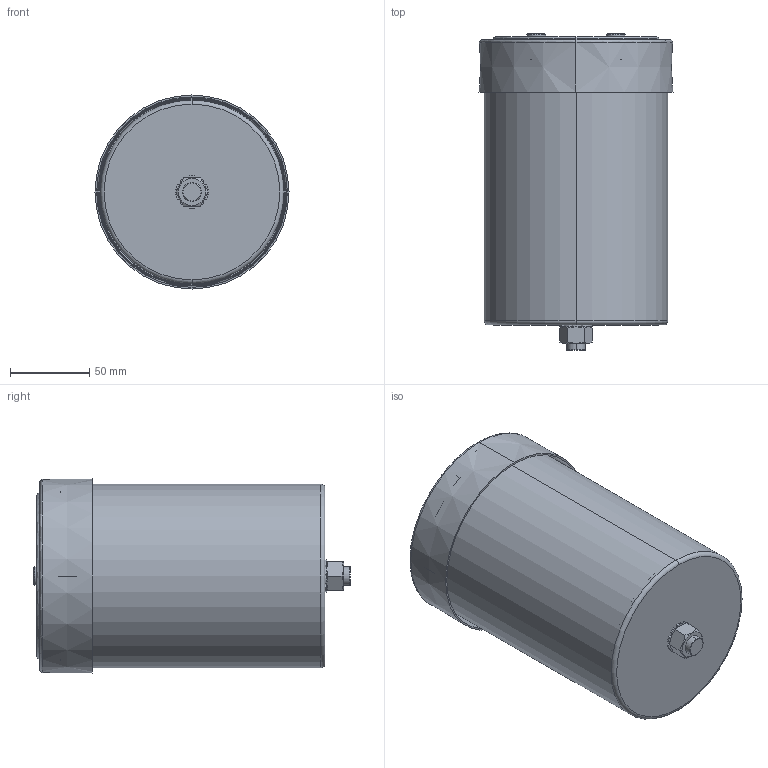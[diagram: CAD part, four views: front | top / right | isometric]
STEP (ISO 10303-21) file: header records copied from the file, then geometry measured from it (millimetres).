
FILE_DESCRIPTION (( 'STEP AP203' ), '1' );
FILE_NAME ('B25680Cx_116x182_184.STEP', '2021-09-30T02:48:54', ( '' ), ( '' ), 'SwSTEP 2.0', 'SolidWorks 2017', '' );
FILE_SCHEMA (( 'CONFIG_CONTROL_DESIGN' ));
Length unit declared in the file: millimetre
Products named in the file (1): B25680Cx_116x182_184
Bounding box: 122.58 x 200 x 122.58 mm (x, y, z)
Volume: 159008.9 mm3; surface area: 248515.8 mm2
Topology: 1 solids, 7 shells, 577 faces, 1430 edges, 903 vertices
Faces by surface type: plane 209, cylinder 168, bspline 83, cone 75, torus 42
Entity records: 20405 total; most frequent: CARTESIAN_POINT 6993, ORIENTED_EDGE 2834, DIRECTION 2774, EDGE_CURVE 1417, AXIS2_PLACEMENT_3D 1124, VERTEX_POINT 903, EDGE_LOOP 640, CIRCLE 629
